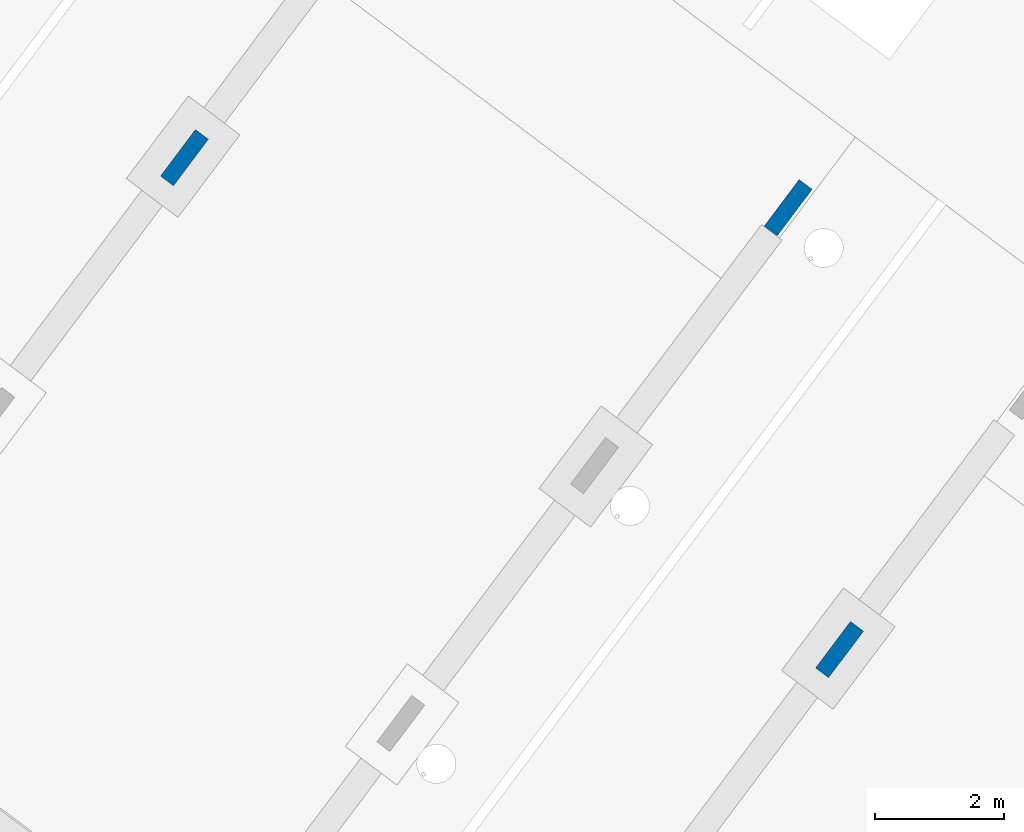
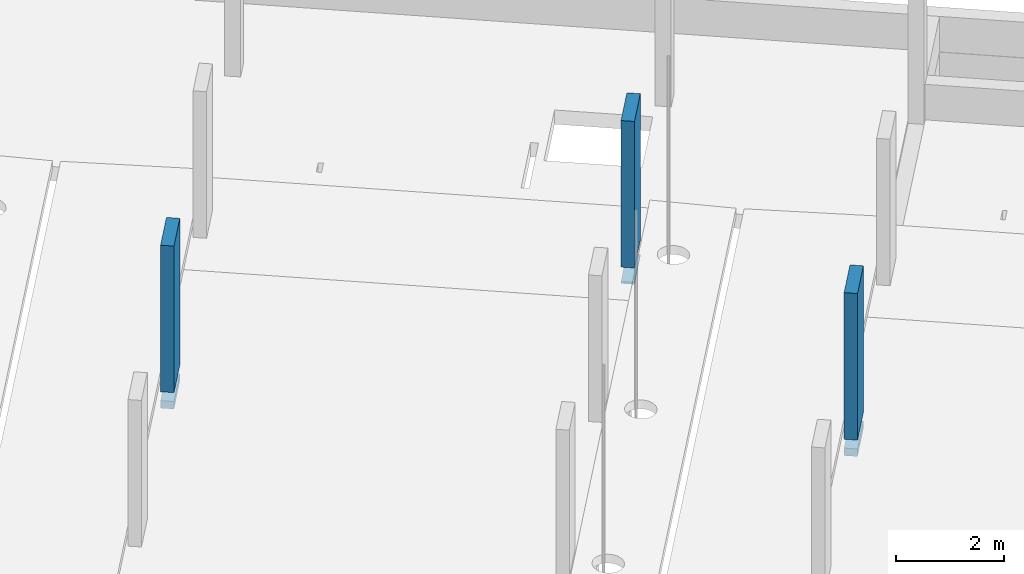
# One storey, part 11 of 24: 3 columns.
"""IFC2X3 building model written with IfcOpenShell, lengths in metres."""

from ifc_helpers import new_model, entity, si_unit, converted_unit, derived_unit, direction, frame, origin, origin_2d_with_axis, place, context, subcontext, project, spatial, rectangle, extrude, source, transform, mapped, material, type_object, type_shapes, element, save


model = new_model("IFC2X3")

# Units and contexts
model_context = context("Model", 3, precision=1e-05, world=origin(), true_north=direction((6.123031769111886e-17, 1.0)))
body_context = subcontext(model_context, "Body", "Model", "MODEL_VIEW")
ifc_project = project(units=[si_unit("LENGTHUNIT", "METRE"), si_unit("AREAUNIT", "SQUARE_METRE"), si_unit("VOLUMEUNIT", "CUBIC_METRE"), converted_unit("PLANEANGLEUNIT", "DEGREE", entity("IfcRatioMeasure", 0.017453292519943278), si_unit("PLANEANGLEUNIT", "RADIAN"), dimensions=[0, 0, 0, 0, 0, 0, 0]), si_unit("MASSUNIT", "GRAM", prefix="KILO"), derived_unit("MASSDENSITYUNIT", [(si_unit("MASSUNIT", "GRAM", prefix="KILO"), 1), (si_unit("LENGTHUNIT", "METRE"), -3)]), derived_unit("IONCONCENTRATIONUNIT", [(si_unit("MASSUNIT", "GRAM", prefix="KILO"), 1), (si_unit("LENGTHUNIT", "METRE"), -3)]), derived_unit("MOMENTOFINERTIAUNIT", [(si_unit("LENGTHUNIT", "METRE"), 4)]), si_unit("TIMEUNIT", "SECOND"), si_unit("FREQUENCYUNIT", "HERTZ"), si_unit("THERMODYNAMICTEMPERATUREUNIT", "DEGREE_CELSIUS"), derived_unit("THERMALTRANSMITTANCEUNIT", [(si_unit("MASSUNIT", "GRAM", prefix="KILO"), 1), (si_unit("THERMODYNAMICTEMPERATUREUNIT", "KELVIN"), -1), (si_unit("TIMEUNIT", "SECOND"), -3)]), derived_unit("THERMALCONDUCTANCEUNIT", [(si_unit("MASSUNIT", "GRAM", prefix="KILO"), 1), (si_unit("THERMODYNAMICTEMPERATUREUNIT", "KELVIN"), -1), (si_unit("TIMEUNIT", "SECOND"), -3), (si_unit("LENGTHUNIT", "METRE"), 1)]), derived_unit("VOLUMETRICFLOWRATEUNIT", [(si_unit("LENGTHUNIT", "METRE"), 3), (si_unit("TIMEUNIT", "SECOND"), -1)]), derived_unit("MASSFLOWRATEUNIT", [(si_unit("MASSUNIT", "GRAM", prefix="KILO"), 1), (si_unit("TIMEUNIT", "SECOND"), -1)]), derived_unit("ROTATIONALFREQUENCYUNIT", [(si_unit("TIMEUNIT", "SECOND"), -1)]), si_unit("ELECTRICCURRENTUNIT", "AMPERE"), si_unit("ELECTRICVOLTAGEUNIT", "VOLT"), si_unit("POWERUNIT", "WATT"), si_unit("FORCEUNIT", "NEWTON", prefix="KILO"), si_unit("ILLUMINANCEUNIT", "LUX"), si_unit("LUMINOUSFLUXUNIT", "LUMEN"), si_unit("LUMINOUSINTENSITYUNIT", "CANDELA"), derived_unit("USERDEFINED", [(si_unit("MASSUNIT", "GRAM", prefix="KILO"), -1), (si_unit("LENGTHUNIT", "METRE"), -2), (si_unit("TIMEUNIT", "SECOND"), 3), (si_unit("LUMINOUSFLUXUNIT", "LUMEN"), 1)]), derived_unit("USERDEFINED", [(si_unit("MASSUNIT", "GRAM", prefix="KILO"), 1), (si_unit("TIMEUNIT", "SECOND"), -3), (si_unit("LENGTHUNIT", "METRE"), 3), (si_unit("ELECTRICCURRENTUNIT", "AMPERE"), -2)]), derived_unit("SOUNDPOWERUNIT", [(si_unit("MASSUNIT", "GRAM", prefix="KILO"), 1), (si_unit("TIMEUNIT", "SECOND"), -3), (si_unit("LENGTHUNIT", "METRE"), 2)]), derived_unit("SOUNDPRESSUREUNIT", [(si_unit("MASSUNIT", "GRAM", prefix="KILO"), 1), (si_unit("LENGTHUNIT", "METRE"), -1), (si_unit("TIMEUNIT", "SECOND"), -2)]), derived_unit("LINEARVELOCITYUNIT", [(si_unit("LENGTHUNIT", "METRE"), 1), (si_unit("TIMEUNIT", "SECOND"), -1)]), si_unit("PRESSUREUNIT", "PASCAL"), derived_unit("USERDEFINED", [(si_unit("MASSUNIT", "GRAM", prefix="KILO"), 1), (si_unit("LENGTHUNIT", "METRE"), -2), (si_unit("TIMEUNIT", "SECOND"), -2)]), derived_unit("LINEARFORCEUNIT", [(si_unit("MASSUNIT", "GRAM", prefix="KILO"), 1), (si_unit("TIMEUNIT", "SECOND"), -2)]), derived_unit("PLANARFORCEUNIT", [(si_unit("MASSUNIT", "GRAM", prefix="KILO"), 1), (si_unit("LENGTHUNIT", "METRE"), -1), (si_unit("TIMEUNIT", "SECOND"), -2)]), derived_unit("SPECIFICHEATCAPACITYUNIT", [(si_unit("THERMODYNAMICTEMPERATUREUNIT", "KELVIN"), -1), (si_unit("LENGTHUNIT", "METRE"), 2), (si_unit("TIMEUNIT", "SECOND"), -2)]), derived_unit("HEATINGVALUEUNIT", [(si_unit("LENGTHUNIT", "METRE"), 2), (si_unit("TIMEUNIT", "SECOND"), -2)]), derived_unit("VAPORPERMEABILITYUNIT", [(si_unit("LENGTHUNIT", "METRE"), -1), (si_unit("TIMEUNIT", "SECOND"), 1)]), derived_unit("DYNAMICVISCOSITYUNIT", [(si_unit("MASSUNIT", "GRAM", prefix="KILO"), 1), (si_unit("TIMEUNIT", "SECOND"), -1), (si_unit("LENGTHUNIT", "METRE"), -1)]), derived_unit("THERMALEXPANSIONCOEFFICIENTUNIT", [(si_unit("THERMODYNAMICTEMPERATUREUNIT", "KELVIN"), -1)]), derived_unit("MODULUSOFELASTICITYUNIT", [(si_unit("MASSUNIT", "GRAM", prefix="KILO"), 1), (si_unit("LENGTHUNIT", "METRE"), -1), (si_unit("TIMEUNIT", "SECOND"), -2)]), derived_unit("ISOTHERMALMOISTURECAPACITYUNIT", [(si_unit("LENGTHUNIT", "METRE"), 3), (si_unit("MASSUNIT", "GRAM", prefix="KILO"), -1)]), derived_unit("MOISTUREDIFFUSIVITYUNIT", [(si_unit("TIMEUNIT", "SECOND"), -1), (si_unit("LENGTHUNIT", "METRE"), 2)])], contexts=[model_context])

# Site, building, storey
site_placement = place(None, origin())
site = spatial("IfcSite", under=ifc_project, at=site_placement, Name="Default", CompositionType="ELEMENT")
building_placement = place(site_placement, frame((0.0, 0.0, 235.0), z_axis=(0.0, 0.0, 1.0), x_axis=(-0.7996477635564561, 0.6004693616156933, 0.0)))
building = spatial("IfcBuilding", under=site, at=building_placement, CompositionType="ELEMENT")
storey_placement = place(building_placement, origin())
storey = spatial("IfcBuildingStorey", under=building, at=storey_placement, Name="P0- Escola", CompositionType="ELEMENT", Elevation=0.0)

# Columns
ifc_material = material(Name="_Formigó- T1- STR")
column_type_1 = type_object("IfcColumnType", Name="STR- P- Formigó- Rectangular- T1:25x90cm", PredefinedType="COLUMN", material=ifc_material)
shared_shape_1 = source(origin(), body_context, "Body", "SweptSolid", [
    extrude(rectangle(XDim=0.899999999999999, YDim=0.2499999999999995, at=origin_2d_with_axis()), frame((36.47014768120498, -29.915191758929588, -0.57), z_axis=(0.0, 0.0, 1.0), x_axis=(0.0, -1.0, 0.0)), (0.0, 0.0, 1.0), 0.16999999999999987),
    extrude(rectangle(XDim=0.899999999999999, YDim=0.2499999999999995, at=origin_2d_with_axis()), frame((36.47014768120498, -29.915191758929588, -0.2), z_axis=(0.0, 0.0, 1.0), x_axis=(0.0, -1.0, 0.0)), (0.0, 0.0, 1.0), 3.3000000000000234),
])
type_shapes(column_type_1, [shared_shape_1])
column_1_placement = place(storey_placement, origin())
element("IfcColumn", 1, at=column_1_placement, inside=storey, type_object=column_type_1, material=ifc_material, Name="STR- P- Formigó- Rectangular- T1:25x90cm", ObjectType="STR- P- Formigó- Rectangular- T1:25x90cm", context=body_context, shape_type="MappedRepresentation", body=[
    mapped(shared_shape_1, transform((0.0, 0.0, 0.0), scale=1.0)),
])
column_type_2 = type_object("IfcColumnType", Name="STR- P- Formigó- Rectangular- T1:25x90cm", PredefinedType="COLUMN", material=ifc_material)
shared_shape_2 = source(origin(), body_context, "Body", "SweptSolid", [
    extrude(rectangle(XDim=0.899999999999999, YDim=0.25000000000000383, at=origin_2d_with_axis()), frame((49.17014768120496, -29.91519175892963, -0.57), z_axis=(0.0, 0.0, 1.0), x_axis=(0.0, -1.0, 0.0)), (0.0, 0.0, 1.0), 0.16999999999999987),
    extrude(rectangle(XDim=0.899999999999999, YDim=0.25000000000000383, at=origin_2d_with_axis()), frame((49.17014768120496, -29.91519175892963, -0.2), z_axis=(0.0, 0.0, 1.0), x_axis=(0.0, -1.0, 0.0)), (0.0, 0.0, 1.0), 3.3000000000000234),
])
type_shapes(column_type_2, [shared_shape_2])
column_2_placement = place(storey_placement, origin())
element("IfcColumn", 2, at=column_2_placement, inside=storey, type_object=column_type_2, material=ifc_material, Name="STR- P- Formigó- Rectangular- T1:25x90cm", ObjectType="STR- P- Formigó- Rectangular- T1:25x90cm", context=body_context, shape_type="MappedRepresentation", body=[
    mapped(shared_shape_2, transform((0.0, 0.0, 0.0), scale=1.0)),
])
column_type_3 = type_object("IfcColumnType", Name="STR- P- Formigó- Rectangular- T1:25x90cm", PredefinedType="COLUMN", material=ifc_material)
shared_shape_3 = source(origin(), body_context, "Body", "SweptSolid", [
    extrude(rectangle(XDim=0.899999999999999, YDim=0.25000000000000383, at=origin_2d_with_axis()), frame((41.220147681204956, -34.9151917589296, -0.57), z_axis=(0.0, 0.0, 1.0), x_axis=(0.0, -1.0, 0.0)), (0.0, 0.0, 1.0), 0.05000000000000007),
    extrude(rectangle(XDim=0.899999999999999, YDim=0.25000000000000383, at=origin_2d_with_axis()), frame((41.220147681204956, -34.9151917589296, -0.2), z_axis=(0.0, 0.0, 1.0), x_axis=(0.0, -1.0, 0.0)), (0.0, 0.0, 1.0), 3.3000000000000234),
])
type_shapes(column_type_3, [shared_shape_3])
column_3_placement = place(storey_placement, origin())
element("IfcColumn", 3, at=column_3_placement, inside=storey, type_object=column_type_3, material=ifc_material, Name="STR- P- Formigó- Rectangular- T1:25x90cm", ObjectType="STR- P- Formigó- Rectangular- T1:25x90cm", context=body_context, shape_type="MappedRepresentation", body=[
    mapped(shared_shape_3, transform((0.0, 0.0, 0.0), scale=1.0)),
])

save(model, "model.ifc")
